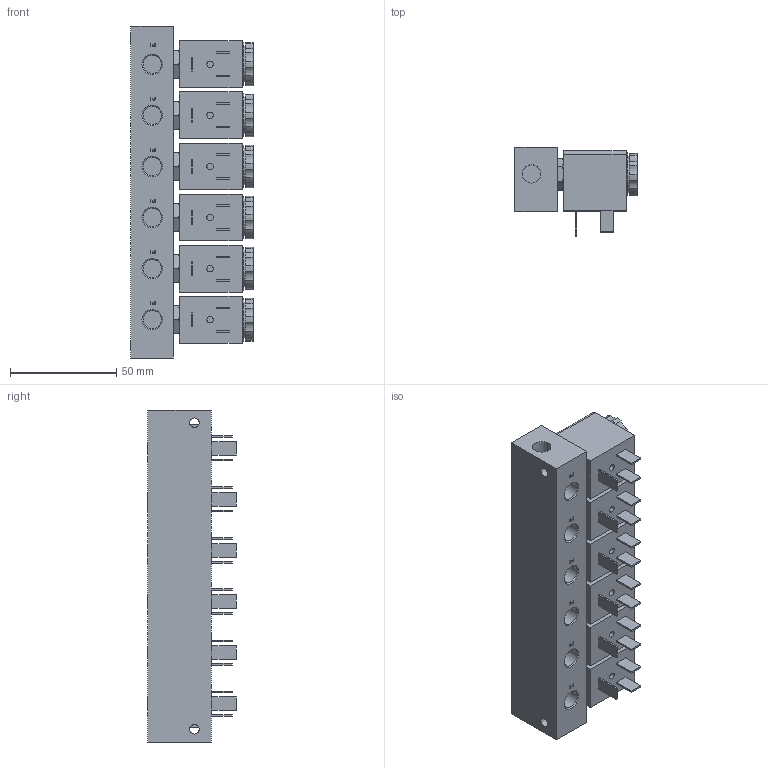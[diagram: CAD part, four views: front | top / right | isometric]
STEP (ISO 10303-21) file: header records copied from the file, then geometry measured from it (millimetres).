
FILE_DESCRIPTION (( 'STEP AP214' ), '1' );
FILE_NAME ('MSO-18-310_6-HN-412_Airtec.step', '2018-12-14T07:45:17', ( '' ), ( '' ), 'SwSTEP 2.0', 'SolidWorks 2010', '' );
FILE_SCHEMA (( 'AUTOMOTIVE_DESIGN' ));
Length unit declared in the file: millimetre
Products named in the file (3): Volumenkörper4; Volumenkörper1; MSO-18-310_6-HN-412_Airtec
Assembly tree (7 placements, depth 2):
  MSO-18-310_6-HN-412_Airtec
    Volumenkörper1  x6
    Volumenkörper4
Bounding box: 57.45 x 41.7 x 156 mm (x, y, z)
Volume: 210849.2 mm3; surface area: 64030.5 mm2
Topology: 7 solids, 8 shells, 949 faces, 2276 edges, 1490 vertices
Faces by surface type: plane 419, cylinder 277, bspline 156, cone 79, torus 18
Full cylindrical faces by diameter (mm): 1.9 x6, 3 x6, 4.134 x6, 4.5 x2, 6.647 x6, 7.4 x2, 8 x6, 8.15 x6, 8.2 x6, 8.566 x8, 9.04 x12, 10.5 x6, 12.3 x1, 13.2 x6, 16.6 x6, 17.041 x6, 20.1 x6
Entity records: 30214 total; most frequent: CARTESIAN_POINT 7348, ORIENTED_EDGE 3558, DIRECTION 3286, EDGE_CURVE 1779, AXIS2_PLACEMENT_3D 1252, VERTEX_POINT 1241, EDGE_LOOP 1082, FACE_OUTER_BOUND 921
